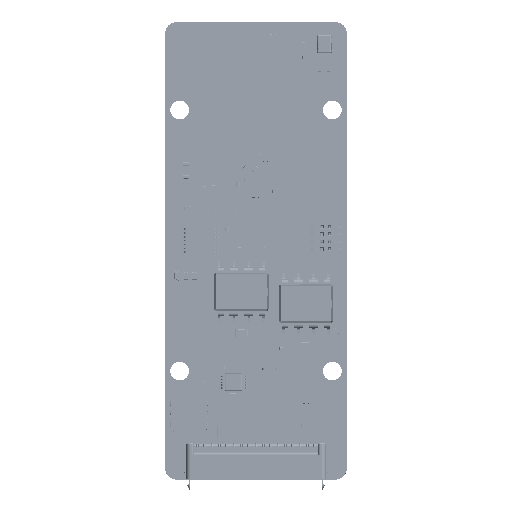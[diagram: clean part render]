
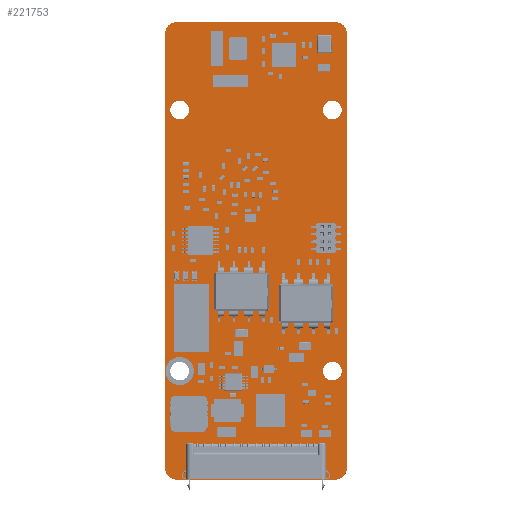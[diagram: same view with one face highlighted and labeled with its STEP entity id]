
A CAD part, top view. The second image highlights one B-rep face of the part: STEP entity #221753.
In plain terms, the highlighted planar face has unit normal (0, 0, 1).
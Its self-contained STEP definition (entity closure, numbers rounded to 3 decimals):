
#2759=FACE_BOUND('',#23539,.T.);
#2760=FACE_BOUND('',#23540,.T.);
#2761=FACE_BOUND('',#23541,.T.);
#2762=FACE_BOUND('',#23542,.T.);
#3304=PLANE('',#235430);
#10161=FACE_OUTER_BOUND('',#23538,.T.);
#23538=EDGE_LOOP('',(#140520,#140521,#140522,#140523,#140524,#140525,#140526,
#140527));
#23539=EDGE_LOOP('',(#140528));
#23540=EDGE_LOOP('',(#140529));
#23541=EDGE_LOOP('',(#140530));
#23542=EDGE_LOOP('',(#140531));
#37444=LINE('',#326065,#58677);
#37448=LINE('',#326077,#58681);
#37452=LINE('',#326089,#58685);
#37456=LINE('',#326100,#58689);
#58677=VECTOR('',#258584,10.);
#58681=VECTOR('',#258596,10.);
#58685=VECTOR('',#258608,10.);
#58689=VECTOR('',#258620,10.);
#79907=CIRCLE('',#235401,2.4);
#79909=CIRCLE('',#235406,1.6);
#79911=CIRCLE('',#235409,1.6);
#79913=CIRCLE('',#235412,1.6);
#79915=CIRCLE('',#235415,2.);
#79917=CIRCLE('',#235419,2.);
#79919=CIRCLE('',#235423,2.);
#79921=CIRCLE('',#235427,2.);
#89757=VERTEX_POINT('',#326028);
#89759=VERTEX_POINT('',#326037);
#89761=VERTEX_POINT('',#326043);
#89763=VERTEX_POINT('',#326049);
#89765=VERTEX_POINT('',#326055);
#89766=VERTEX_POINT('',#326056);
#89769=VERTEX_POINT('',#326064);
#89771=VERTEX_POINT('',#326070);
#89773=VERTEX_POINT('',#326076);
#89775=VERTEX_POINT('',#326082);
#89777=VERTEX_POINT('',#326088);
#89779=VERTEX_POINT('',#326094);
#108902=EDGE_CURVE('',#89757,#89757,#79907,.T.);
#108905=EDGE_CURVE('',#89759,#89759,#79909,.T.);
#108908=EDGE_CURVE('',#89761,#89761,#79911,.T.);
#108911=EDGE_CURVE('',#89763,#89763,#79913,.T.);
#108914=EDGE_CURVE('',#89765,#89766,#79915,.T.);
#108918=EDGE_CURVE('',#89766,#89769,#37444,.T.);
#108921=EDGE_CURVE('',#89769,#89771,#79917,.T.);
#108924=EDGE_CURVE('',#89771,#89773,#37448,.T.);
#108927=EDGE_CURVE('',#89773,#89775,#79919,.T.);
#108930=EDGE_CURVE('',#89775,#89777,#37452,.T.);
#108933=EDGE_CURVE('',#89777,#89779,#79921,.T.);
#108936=EDGE_CURVE('',#89779,#89765,#37456,.T.);
#140520=ORIENTED_EDGE('',*,*,#108936,.T.);
#140521=ORIENTED_EDGE('',*,*,#108914,.T.);
#140522=ORIENTED_EDGE('',*,*,#108918,.T.);
#140523=ORIENTED_EDGE('',*,*,#108921,.T.);
#140524=ORIENTED_EDGE('',*,*,#108924,.T.);
#140525=ORIENTED_EDGE('',*,*,#108927,.T.);
#140526=ORIENTED_EDGE('',*,*,#108930,.T.);
#140527=ORIENTED_EDGE('',*,*,#108933,.T.);
#140528=ORIENTED_EDGE('',*,*,#108902,.T.);
#140529=ORIENTED_EDGE('',*,*,#108905,.T.);
#140530=ORIENTED_EDGE('',*,*,#108908,.T.);
#140531=ORIENTED_EDGE('',*,*,#108911,.T.);
#221753=ADVANCED_FACE('',(#10161,#2759,#2760,#2761,#2762),#3304,.T.);
#235401=AXIS2_PLACEMENT_3D('',#326030,#258544,#258545);
#235406=AXIS2_PLACEMENT_3D('',#326038,#258555,#258556);
#235409=AXIS2_PLACEMENT_3D('',#326044,#258562,#258563);
#235412=AXIS2_PLACEMENT_3D('',#326050,#258569,#258570);
#235415=AXIS2_PLACEMENT_3D('',#326057,#258576,#258577);
#235419=AXIS2_PLACEMENT_3D('',#326071,#258589,#258590);
#235423=AXIS2_PLACEMENT_3D('',#326083,#258601,#258602);
#235427=AXIS2_PLACEMENT_3D('',#326095,#258613,#258614);
#235430=AXIS2_PLACEMENT_3D('',#326102,#258622,#258623);
#258544=DIRECTION('center_axis',(0.,0.,-1.));
#258545=DIRECTION('ref_axis',(-1.,0.,0.));
#258555=DIRECTION('center_axis',(0.,0.,-1.));
#258556=DIRECTION('ref_axis',(-1.,0.,0.));
#258562=DIRECTION('center_axis',(0.,0.,-1.));
#258563=DIRECTION('ref_axis',(-1.,0.,0.));
#258569=DIRECTION('center_axis',(0.,0.,-1.));
#258570=DIRECTION('ref_axis',(-1.,0.,0.));
#258576=DIRECTION('center_axis',(0.,0.,1.));
#258577=DIRECTION('ref_axis',(-1.,0.,0.));
#258584=DIRECTION('',(1.,0.,0.));
#258589=DIRECTION('center_axis',(0.,0.,1.));
#258590=DIRECTION('ref_axis',(0.,-1.,0.));
#258596=DIRECTION('',(0.,1.,0.));
#258601=DIRECTION('center_axis',(0.,0.,1.));
#258602=DIRECTION('ref_axis',(1.,0.,0.));
#258608=DIRECTION('',(-1.,0.,0.));
#258613=DIRECTION('center_axis',(0.,0.,1.));
#258614=DIRECTION('ref_axis',(0.,1.,0.));
#258620=DIRECTION('',(0.,-1.,0.));
#258622=DIRECTION('center_axis',(0.,0.,1.));
#258623=DIRECTION('ref_axis',(1.,0.,0.));
#326028=CARTESIAN_POINT('',(-10.6,-20.5,0.));
#326030=CARTESIAN_POINT('Origin',(-13.,-20.5,0.));
#326037=CARTESIAN_POINT('',(14.6,-20.5,0.));
#326038=CARTESIAN_POINT('Origin',(13.,-20.5,0.));
#326043=CARTESIAN_POINT('',(14.6,24.,0.));
#326044=CARTESIAN_POINT('Origin',(13.,24.,0.));
#326049=CARTESIAN_POINT('',(-11.4,24.,0.));
#326050=CARTESIAN_POINT('Origin',(-13.,24.,0.));
#326055=CARTESIAN_POINT('',(-15.5,-37.,0.));
#326056=CARTESIAN_POINT('',(-13.5,-39.,0.));
#326057=CARTESIAN_POINT('Origin',(-13.5,-37.,0.));
#326064=CARTESIAN_POINT('',(13.5,-39.,0.));
#326065=CARTESIAN_POINT('',(-13.5,-39.,0.));
#326070=CARTESIAN_POINT('',(15.5,-37.,0.));
#326071=CARTESIAN_POINT('Origin',(13.5,-37.,0.));
#326076=CARTESIAN_POINT('',(15.5,37.,0.));
#326077=CARTESIAN_POINT('',(15.5,-37.,0.));
#326082=CARTESIAN_POINT('',(13.5,39.,0.));
#326083=CARTESIAN_POINT('Origin',(13.5,37.,0.));
#326088=CARTESIAN_POINT('',(-13.5,39.,0.));
#326089=CARTESIAN_POINT('',(13.5,39.,0.));
#326094=CARTESIAN_POINT('',(-15.5,37.,0.));
#326095=CARTESIAN_POINT('Origin',(-13.5,37.,0.));
#326100=CARTESIAN_POINT('',(-15.5,37.,0.));
#326102=CARTESIAN_POINT('Origin',(0.,0.,
0.));
